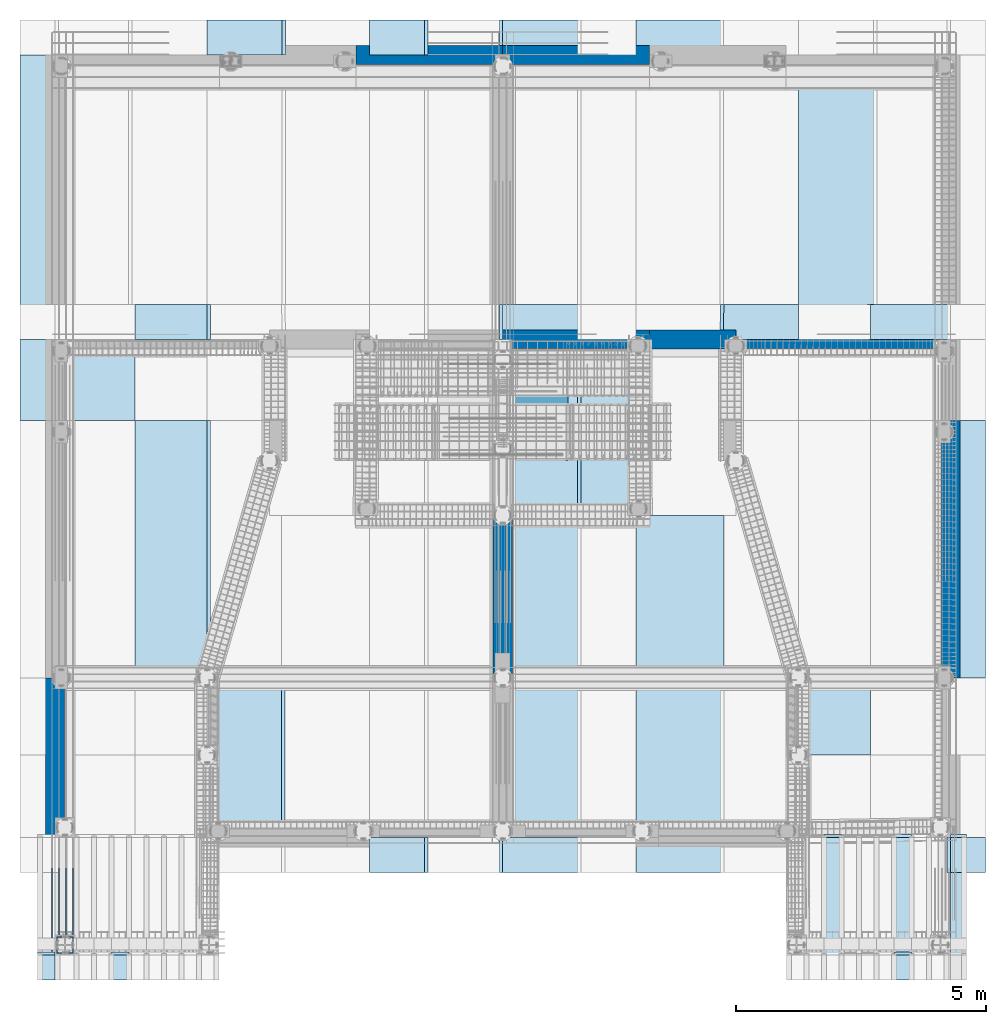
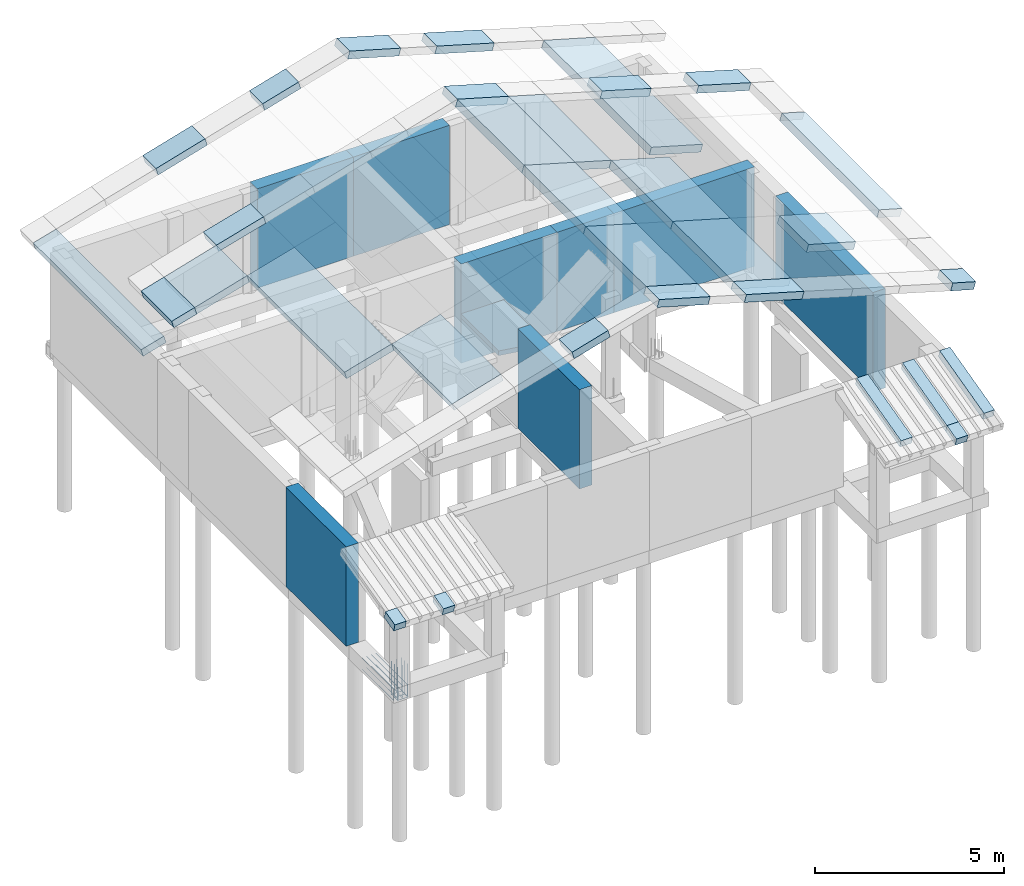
# One storey, part 2 of 13: 32 slabs, 9 walls, 2 reinforcing bars.
"""IFC4 building model written with IfcOpenShell, lengths in metres."""

import ifcopenshell
import ifcopenshell.guid

model = None  # the IFC model being written
_history = None  # IfcOwnerHistory: only IFC2X3 demands one
_inside = {}  # id of a spatial element -> (the spatial element, [elements in it])
_under = {}  # id of a project, library or spatial element -> (it, [spatial elements below it])
_declared = {}  # id of a project -> (the project, [libraries it declares])
_typed = {}  # id of a type object -> (the type object, [elements of that type])
_made_of = {}  # id of a material, layer set ... -> (it, [elements and type objects made of it])


def new_model(schema):
    """Start an empty IFC model of exactly this schema.

    Asked for "IFC4X3", IfcOpenShell would pick the latest addendum, in which some entities
    have other attributes; the version numbers below select the first issue.
    IFC2X3 requires an IfcOwnerHistory on every rooted entity: one is made here for all.
    """
    global model, _history
    if schema == "IFC4X3":
        model = ifcopenshell.file(schema_version=(4, 3, 0, 0))
    else:
        model = ifcopenshell.file(schema=schema)
    _inside.clear()
    _under.clear()
    _declared.clear()
    _typed.clear()
    _made_of.clear()
    _history = None
    if model.schema == "IFC2X3":
        org = make("IfcOrganization", Name="unknown")
        user = make(
            "IfcPersonAndOrganization",
            ThePerson=make("IfcPerson", FamilyName="unknown"),
            TheOrganization=org,
        )
        app = make(
            "IfcApplication",
            ApplicationDeveloper=org,
            Version="unknown",
            ApplicationFullName="unknown",
            ApplicationIdentifier="unknown",
        )
        _history = make(
            "IfcOwnerHistory",
            OwningUser=user,
            OwningApplication=app,
            ChangeAction="ADDED",
            CreationDate=0,
        )
    return model


def make(cls, **values):
    """One entity of the class cls with the attributes given. An attribute that is None is left unset."""
    return model.create_entity(
        cls, **{name: value for name, value in values.items() if value is not None}
    )


def entity(cls, *values):
    """Any entity or typed value of the class cls, its attributes in the order of the schema. None: left unset."""
    e = model.create_entity(cls)
    for i, value in enumerate(values):
        if value is not None:
            e[i] = value
    return e


def rooted(cls, **values):
    """An entity with a GlobalId (a new one), such as an element, a storey or a relation."""
    return make(cls, GlobalId=ifcopenshell.guid.new(), OwnerHistory=_history, **values)


def si_unit(unit_type, name, prefix=None):
    """IfcSIUnit, for example si_unit("LENGTHUNIT", "METRE", prefix="MILLI")."""
    return make("IfcSIUnit", UnitType=unit_type, Prefix=prefix, Name=name)


def assignment(units):
    """IfcUnitAssignment: the units of a project."""
    return None if units is None else make("IfcUnitAssignment", Units=units)


def point(xyz):
    """IfcCartesianPoint."""
    return None if xyz is None else make("IfcCartesianPoint", Coordinates=xyz)


def direction(xyz):
    """IfcDirection."""
    return None if xyz is None else make("IfcDirection", DirectionRatios=xyz)


def frame(location, z_axis=None, x_axis=None):
    """IfcAxis2Placement3D, a coordinate frame: its origin and axes. An axis left out is left unset."""
    return make(
        "IfcAxis2Placement3D",
        Location=point(location),
        Axis=direction(z_axis),
        RefDirection=direction(x_axis),
    )


def origin_with_axes():
    """The frame at (0, 0, 0) with the z axis (0, 0, 1) and the x axis (1, 0, 0) written out."""
    return frame((0.0, 0.0, 0.0), z_axis=(0.0, 0.0, 1.0), x_axis=(1.0, 0.0, 0.0))


def place(relative_to, where):
    """IfcLocalPlacement: puts the frame where relative to a parent placement (None: the world)."""
    return make(
        "IfcLocalPlacement", PlacementRelTo=relative_to, RelativePlacement=where
    )


def context(
    kind, dimensions, precision=None, world=None, true_north=None, identifier=None
):
    """IfcGeometricRepresentationContext, for example the 3D "Model" context."""
    return make(
        "IfcGeometricRepresentationContext",
        ContextIdentifier=identifier,
        ContextType=kind,
        CoordinateSpaceDimension=dimensions,
        Precision=precision,
        WorldCoordinateSystem=world,
        TrueNorth=true_north,
    )


def project(units=None, contexts=None):
    """IfcProject with its units and contexts."""
    return rooted(
        "IfcProject",
        Name="project",
        RepresentationContexts=contexts,
        UnitsInContext=assignment(units),
    )


def spatial(cls, under=None, at=None, **own):
    """A site, building, storey or space (cls), placed at a placement, below another one or the project."""
    s = rooted(cls, ObjectPlacement=at, **own)
    if under is not None:
        _under.setdefault(under.id(), (under, []))[1].append(s)
    return s


def polyline(points):
    """IfcPolyline through the points."""
    return make("IfcPolyline", Points=[point(p) for p in points])


def outline(outer, holes=None, kind="AREA"):
    """IfcArbitraryClosedProfileDef: a profile drawn as a closed curve; with holes, ...WithVoids."""
    if holes is None:
        return make("IfcArbitraryClosedProfileDef", ProfileType=kind, OuterCurve=outer)
    return make(
        "IfcArbitraryProfileDefWithVoids",
        ProfileType=kind,
        OuterCurve=outer,
        InnerCurves=holes,
    )


def extrude(swept, where, along, depth):
    """IfcExtrudedAreaSolid: the profile swept, set in the frame where, extruded along a direction by depth."""
    return make(
        "IfcExtrudedAreaSolid",
        SweptArea=swept,
        Position=where,
        ExtrudedDirection=direction(along),
        Depth=depth,
    )


def faces_of(points, faces, orient=None, outer=None):
    """IfcFace entities. A face is a list of loops; a loop is a list of indices into points, from 0.

    orient and outer hold one flag for each loop. By default every Orientation is true, the
    first loop of a face is its IfcFaceOuterBound and the others are IfcFaceBound.
    """
    made = []
    for i, loops in enumerate(faces):
        bounds = []
        for j, loop in enumerate(loops):
            is_outer = j == 0 if outer is None else outer[i][j]
            bounds.append(
                make(
                    "IfcFaceOuterBound" if is_outer else "IfcFaceBound",
                    Bound=make("IfcPolyLoop", Polygon=[points[k] for k in loop]),
                    Orientation=True if orient is None else orient[i][j],
                )
            )
        made.append(make("IfcFace", Bounds=bounds))
    return made


def faceted_brep(points, faces, orient=None, outer=None, voids=None):
    """IfcFacetedBrep: a solid bounded by flat faces; with voids (closed shells), ...WithVoids."""
    shared = [point(p) for p in points]
    hull = make("IfcClosedShell", CfsFaces=faces_of(shared, faces, orient, outer))
    if voids is None:
        return make("IfcFacetedBrep", Outer=hull)
    return make(
        "IfcFacetedBrepWithVoids",
        Outer=hull,
        Voids=[
            make(cls, CfsFaces=faces_of(shared, fs, o, b)) for cls, fs, o, b in voids
        ],
    )


def shape(context_of_items, identifier, shape_type, items):
    """IfcShapeRepresentation: the items that make up one representation, for example the "Body"."""
    return make(
        "IfcShapeRepresentation",
        ContextOfItems=context_of_items,
        RepresentationIdentifier=identifier,
        RepresentationType=shape_type,
        Items=items,
    )


def source(mapping_origin, context_of_items, identifier, shape_type, items):
    """IfcRepresentationMap: a shape defined once, which mapped items show again and again."""
    return make(
        "IfcRepresentationMap",
        MappingOrigin=mapping_origin,
        MappedRepresentation=shape(context_of_items, identifier, shape_type, items),
    )


def transform(
    local_origin,
    x_axis=None,
    y_axis=None,
    z_axis=None,
    scale=None,
    scale2=None,
    scale3=None,
    uniform=True,
):
    """IfcCartesianTransformationOperator3D, or its non-uniform kind. x_axis, y_axis, z_axis: its Axis1, 2, 3."""
    if uniform:
        return make(
            "IfcCartesianTransformationOperator3D",
            Axis1=direction(x_axis),
            Axis2=direction(y_axis),
            LocalOrigin=point(local_origin),
            Scale=scale,
            Axis3=direction(z_axis),
        )
    return make(
        "IfcCartesianTransformationOperator3DnonUniform",
        Axis1=direction(x_axis),
        Axis2=direction(y_axis),
        LocalOrigin=point(local_origin),
        Scale=scale,
        Axis3=direction(z_axis),
        Scale2=scale2,
        Scale3=scale3,
    )


def mapped(mapping_source, mapping_target):
    """IfcMappedItem: shows the shape of a source again, moved by a transform."""
    return make(
        "IfcMappedItem", MappingSource=mapping_source, MappingTarget=mapping_target
    )


def material(Name=None, Category=None):
    """IfcMaterial."""
    return make("IfcMaterial", Name=Name, Category=Category)


def layer(
    of_material, thickness, ventilated=None, Name=None, Category=None, Priority=None
):
    """IfcMaterialLayer: one layer of a wall or slab, of a material (None: an air gap)."""
    return make(
        "IfcMaterialLayer",
        Material=of_material,
        LayerThickness=thickness,
        IsVentilated=ventilated,
        Name=Name,
        Category=Category,
        Priority=Priority,
    )


def layer_set(layers, Name=None):
    """IfcMaterialLayerSet."""
    return make("IfcMaterialLayerSet", MaterialLayers=layers, LayerSetName=Name)


def layer_usage(for_layer_set, set_direction, sense, offset, extent=None):
    """IfcMaterialLayerSetUsage: how a layer set lies in its element."""
    return make(
        "IfcMaterialLayerSetUsage",
        ForLayerSet=for_layer_set,
        LayerSetDirection=set_direction,
        DirectionSense=sense,
        OffsetFromReferenceLine=offset,
        ReferenceExtent=extent,
    )


def made_of(thing, what):
    """Note that an element or type object is made of a material, layer set ...; save() writes the relation."""
    if what is not None:
        _made_of.setdefault(what.id(), (what, []))[1].append(thing)
    return thing


def type_object(cls, material=None, **own):
    """A type object (cls), such as IfcWallType, which elements share."""
    return made_of(rooted(cls, **own), material)


def element(
    cls,
    number,
    at=None,
    inside=None,
    cuts=None,
    type_object=None,
    material=None,
    context=None,
    identifier="Body",
    shape_type=None,
    held_by="IfcProductDefinitionShape",
    body=None,
    shapes=None,
    **own,
):
    """One element of the class cls, such as IfcWall. Its Tag is "e" and its number.

    at: its placement. inside: the storey or other place that contains it. cuts: it is an
    opening in that element (IfcRelVoidsElement). A single representation is given by context,
    identifier, shape_type and body (its items); several are given by shapes. held_by: the class
    of the entity that holds the representations. save() writes the other relations.
    """
    e = rooted(cls, Tag="e%d" % number, ObjectPlacement=at, **own)
    if body is not None:
        shapes = [shape(context, identifier, shape_type, body)]
    if shapes is not None:
        e.Representation = make(held_by, Representations=shapes)
    if inside is not None:
        _inside.setdefault(inside.id(), (inside, []))[1].append(e)
    if cuts is not None:
        rooted(
            "IfcRelVoidsElement", RelatingBuildingElement=cuts, RelatedOpeningElement=e
        )
    if type_object is not None:
        _typed.setdefault(type_object.id(), (type_object, []))[1].append(e)
    return made_of(e, material)


def aggregate(whole, parts):
    """IfcRelAggregates: a whole, such as a stair, and the parts it consists of."""
    return rooted("IfcRelAggregates", RelatingObject=whole, RelatedObjects=parts)


def save(model, path):
    """Write the relations noted so far, then the file.

    IfcRelAggregates (storeys below a building ...), IfcRelContainedInSpatialStructure (elements
    in a storey), IfcRelDefinesByType, IfcRelAssociatesMaterial and IfcRelDeclares: one each for
    every whole, place, type object, material and project.
    """
    for whole, parts in _under.values():
        aggregate(whole, parts)
    for where, things in _inside.values():
        rooted(
            "IfcRelContainedInSpatialStructure",
            RelatedElements=things,
            RelatingStructure=where,
        )
    for kind, things in _typed.values():
        rooted("IfcRelDefinesByType", RelatedObjects=things, RelatingType=kind)
    for what, things in _made_of.values():
        rooted("IfcRelAssociatesMaterial", RelatedObjects=things, RelatingMaterial=what)
    for by, libraries in _declared.values():
        rooted("IfcRelDeclares", RelatingContext=by, RelatedDefinitions=libraries)
    model.write(path)


model = new_model("IFC4")

# Units and contexts
model_context = context("Model", 3, precision=1e-05, world=origin_with_axes())
ifc_project = project(units=[si_unit("LENGTHUNIT", "METRE"), si_unit("AREAUNIT", "SQUARE_METRE"), si_unit("VOLUMEUNIT", "CUBIC_METRE"), si_unit("MASSUNIT", "GRAM", prefix="KILO"), si_unit("TIMEUNIT", "SECOND"), si_unit("PLANEANGLEUNIT", "RADIAN"), si_unit("SOLIDANGLEUNIT", "STERADIAN"), si_unit("THERMODYNAMICTEMPERATUREUNIT", "DEGREE_CELSIUS")], contexts=[model_context])

# Site, building, storey
placement_1 = place(None, origin_with_axes())
site = spatial("IfcSite", under=ifc_project, at=placement_1, Name="Italia", CompositionType="ELEMENT")
building = spatial("IfcBuilding", under=site, at=placement_1, Name="Villa", CompositionType="ELEMENT")
storey = spatial("IfcBuildingStorey", under=building, at=placement_1, Name="Storey 0", CompositionType="ELEMENT", Elevation=0.0)

# Slabs
ifc_material_1 = material(Name="Concrete", Category="Concrete")
slab_type_1 = type_object("IfcSlabType", Name="3 COPERTURA DEL fabbricato perline", PredefinedType="FLOOR", material=ifc_material_1)
placement_2 = place(placement_1, origin_with_axes())
slab_1_placement = place(placement_2, origin_with_axes())
element("IfcSlab", 1, at=slab_1_placement, inside=storey, type_object=slab_type_1, Name="206", context=model_context, shape_type="SweptSolid", body=[
    extrude(outline(polyline([(0.0, 0.0), (0.0, 1.55361), (3.19, 1.55361), (3.19, 0.0), (1.65, 0.0), (0.0, 0.0)])), frame((3.18, 2.35, 6.68), z_axis=(0.283211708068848, 0.0, -0.959057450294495), x_axis=(0.0, 1.0, 0.0)), (0.0, 0.0, 1.0), 0.24),
])
ifc_material_2 = material(Name="Concrete", Category="Concrete")
slab_type_2 = type_object("IfcSlabType", Name="3 COPERTURA DEL fabbricato perline", PredefinedType="FLOOR", material=ifc_material_2)
slab_2_placement = place(placement_2, origin_with_axes())
element("IfcSlab", 2, at=slab_2_placement, inside=storey, type_object=slab_type_2, Name="210", context=model_context, shape_type="SweptSolid", body=[
    extrude(outline(polyline([(0.0, 0.0), (0.0, 1.49723), (5.14, 1.49723), (5.14, 0.0), (0.0, 0.0)])), frame((1.74, 5.54, 6.27), z_axis=(0.273838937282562, 0.0, -0.961775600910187), x_axis=(0.0, 1.0, 0.0)), (0.0, 0.0, 1.0), 0.24),
])
ifc_material_3 = material(Name="Concrete", Category="Concrete")
slab_type_3 = type_object("IfcSlabType", Name="3 COPERTURA DEL fabbricato perline", PredefinedType="FLOOR", material=ifc_material_3)
slab_3_placement = place(placement_2, origin_with_axes())
element("IfcSlab", 3, at=slab_3_placement, inside=storey, type_object=slab_type_3, Name="216", context=model_context, shape_type="SweptSolid", body=[
    extrude(outline(polyline([(0.0, 0.0), (0.0, 1.6676), (1.62, 1.6676), (1.62, 0.0), (0.0, 0.0)])), frame((0.14, 10.68, 5.8), z_axis=(0.281841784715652, 0.0, -0.959460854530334), x_axis=(0.0, 1.0, 0.0)), (0.0, 0.0, 1.0), 0.24),
])
ifc_material_4 = material(Name="Concrete", Category="Concrete")
slab_type_4 = type_object("IfcSlabType", Name="1 COP DEL LOGGIATO IN LEGNO E MEZZANE", PredefinedType="FLOOR", material=ifc_material_4)
slab_4_placement = place(placement_2, origin_with_axes())
element("IfcSlab", 4, at=slab_4_placement, inside=storey, type_object=slab_type_4, Name="400", context=model_context, shape_type="SweptSolid", body=[
    extrude(outline(polyline([(0.0, 0.0), (-0.35, 0.0), (-0.35, 0.51604), (0.0, 0.51604), (0.0, 0.0)])), frame((-0.21, -0.5, 2.47234), z_axis=(0.0, 0.247383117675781, -0.968917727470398), x_axis=(-1.0, 0.0, 0.0)), (0.0, 0.0, 1.0), 0.24),
])
ifc_material_5 = material(Name="Concrete", Category="Concrete")
slab_type_5 = type_object("IfcSlabType", Name="1 COP DEL LOGGIATO IN LEGNO E MEZZANE", PredefinedType="FLOOR", material=ifc_material_5)
slab_5_placement = place(placement_2, origin_with_axes())
element("IfcSlab", 5, at=slab_5_placement, inside=storey, type_object=slab_type_5, Name="404", context=model_context, shape_type="SweptSolid", body=[
    extrude(outline(polyline([(0.0, 0.0), (-0.35, 0.0), (-0.35, 0.51604), (0.0, 0.51604), (0.0, 0.0)])), frame((1.27, -0.5, 2.47234), z_axis=(0.0, 0.247383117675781, -0.968917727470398), x_axis=(-1.0, 0.0, 0.0)), (0.0, 0.0, 1.0), 0.24),
])
ifc_material_6 = material(Name="Concrete", Category="Concrete")
slab_type_6 = type_object("IfcSlabType", Name="1 COP DEL LOGGIATO IN LEGNO E MEZZANE", PredefinedType="FLOOR", material=ifc_material_6)
slab_6_placement = place(placement_2, origin_with_axes())
element("IfcSlab", 6, at=slab_6_placement, inside=storey, type_object=slab_type_6, Name="227", context=model_context, shape_type="SweptSolid", body=[
    extrude(outline(polyline([(0.0, 0.0), (-0.700001, 0.0), (-0.700001, -1.5632), (0.0, -1.5632), (0.0, 0.0)])), frame((4.68, 18.69, 5.22), z_axis=(0.281472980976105, 0.0, -0.959569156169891), x_axis=(0.0, 1.0, 0.0)), (0.0, 0.0, 1.0), 0.24),
])
ifc_material_7 = material(Name="Concrete", Category="Concrete")
slab_type_7 = type_object("IfcSlabType", Name="1 COP DEL LOGGIATO IN LEGNO E MEZZANE", PredefinedType="FLOOR", material=ifc_material_7)
slab_7_placement = place(placement_2, origin_with_axes())
element("IfcSlab", 7, at=slab_7_placement, inside=storey, type_object=slab_type_7, Name="229", context=model_context, shape_type="SweptSolid", body=[
    extrude(outline(polyline([(0.0, 0.0), (-0.700001, 0.0), (-0.700001, -1.1456), (0.0, -1.1456), (0.0, 0.0)])), frame((7.53, 18.69, 6.05), z_axis=(0.279329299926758, 0.0, -0.960195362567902), x_axis=(0.0, 1.0, 0.0)), (0.0, 0.0, 1.0), 0.24),
])
ifc_material_8 = material(Name="Concrete", Category="Concrete")
slab_type_8 = type_object("IfcSlabType", Name="1 COP DEL LOGGIATO IN LEGNO E MEZZANE", PredefinedType="FLOOR", material=ifc_material_8)
slab_8_placement = place(placement_2, origin_with_axes())
element("IfcSlab", 8, at=slab_8_placement, inside=storey, type_object=slab_type_8, Name="232", context=model_context, shape_type="SweptSolid", body=[
    extrude(outline(polyline([(0.0, 0.0), (-5.69, 0.0), (-5.69, -0.728011), (0.0, -0.728011), (0.0, 0.0)])), frame((0.14, 17.99, 3.9), z_axis=(0.274721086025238, 0.0, -0.961523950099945), x_axis=(0.0, 1.0, 0.0)), (0.0, 0.0, 1.0), 0.24),
])
ifc_material_9 = material(Name="Concrete", Category="Concrete")
slab_type_9 = type_object("IfcSlabType", Name="1 COP DEL LOGGIATO IN LEGNO E MEZZANE", PredefinedType="FLOOR", material=ifc_material_9)
slab_9_placement = place(placement_2, origin_with_axes())
element("IfcSlab", 9, at=slab_9_placement, inside=storey, type_object=slab_type_9, Name="237", context=model_context, shape_type="SweptSolid", body=[
    extrude(outline(polyline([(0.0, 0.0), (-0.7, 0.0), (-0.7, -1.49723), (0.0, -1.49723), (0.0, 0.0)])), frame((3.18, 13.0, 6.68), z_axis=(0.273838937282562, 0.0, -0.961775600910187), x_axis=(0.0, 1.0, 0.0)), (0.0, 0.0, 1.0), 0.24),
])
ifc_material_10 = material(Name="Concrete", Category="Concrete")
slab_type_10 = type_object("IfcSlabType", Name="1 COP DEL LOGGIATO IN LEGNO E MEZZANE", PredefinedType="FLOOR", material=ifc_material_10)
slab_10_placement = place(placement_2, origin_with_axes())
element("IfcSlab", 10, at=slab_10_placement, inside=storey, type_object=slab_type_10, Name="240", context=model_context, shape_type="SweptSolid", body=[
    extrude(outline(polyline([(0.0, 0.0), (-1.62, 0.0), (-1.62, -0.728011), (0.0, -0.728011), (0.0, 0.0)])), frame((0.14, 12.3, 5.8), z_axis=(0.27472135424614, 0.0, -0.9615238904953), x_axis=(0.0, 1.0, 0.0)), (0.0, 0.0, 1.0), 0.24),
])
ifc_material_11 = material(Name="Concrete", Category="Concrete")
slab_type_11 = type_object("IfcSlabType", Name="1 COP DEL LOGGIATO IN LEGNO E MEZZANE", PredefinedType="FLOOR", material=ifc_material_11)
slab_11_placement = place(placement_2, origin_with_axes())
element("IfcSlab", 11, at=slab_11_placement, inside=storey, type_object=slab_type_11, Name="250", context=model_context, shape_type="SweptSolid", body=[
    extrude(outline(polyline([(0.0, 0.0), (-0.7, 0.0), (-0.7, -1.1456), (0.0, -1.1456), (0.0, 0.0)])), frame((7.53, 2.35, 7.95), z_axis=(0.279329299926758, 0.0, -0.960195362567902), x_axis=(0.0, 1.0, 0.0)), (0.0, 0.0, 1.0), 0.24),
])
ifc_material_12 = material(Name="Concrete", Category="Concrete")
slab_type_12 = type_object("IfcSlabType", Name="3 COPERTURA DEL fabbricato perline", PredefinedType="FLOOR", material=ifc_material_12)
slab_12_placement = place(placement_2, origin_with_axes())
element("IfcSlab", 12, at=slab_12_placement, inside=storey, type_object=slab_type_12, Name="253", context=model_context, shape_type="SweptSolid", body=[
    extrude(outline(polyline([(0.0, 0.0), (0.0, 1.63322), (-5.69, 1.63322), (-5.69, 0.0), (0.0, 0.0)])), frame((16.57, 12.3, 4.33), z_axis=(-0.275532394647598, 0.0, -0.961291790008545), x_axis=(0.0, -1.0, 0.0)), (0.0, 0.0, 1.0), 0.24),
])
ifc_material_13 = material(Name="Concrete", Category="Concrete")
slab_type_13 = type_object("IfcSlabType", Name="3 COPERTURA DEL fabbricato perline", PredefinedType="FLOOR", material=ifc_material_13)
slab_13_placement = place(placement_2, origin_with_axes())
element("IfcSlab", 13, at=slab_13_placement, inside=storey, type_object=slab_type_13, Name="259", context=model_context, shape_type="SweptSolid", body=[
    extrude(outline(polyline([(0.0, 0.0), (-0.00028038, 1.364), (-0.00037694, 1.8324), (-3.19038, 1.83175), (-3.19, -0.000656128), (0.0, 0.0)])), frame((13.51, 2.35, 7.12), z_axis=(-0.278322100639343, -5.9604684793e-05, -0.96048778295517), x_axis=(0.000214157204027, -1.0, 0.0)), (0.0, 0.0, 1.0), 0.24),
])
ifc_material_14 = material(Name="Concrete", Category="Concrete")
slab_type_14 = type_object("IfcSlabType", Name="3 COPERTURA DEL fabbricato perline", PredefinedType="FLOOR", material=ifc_material_14)
slab_14_placement = place(placement_2, origin_with_axes())
element("IfcSlab", 14, at=slab_14_placement, inside=storey, type_object=slab_type_14, Name="261", context=model_context, shape_type="SweptSolid", body=[
    extrude(outline(polyline([(0.0, 0.0), (0.0, 1.62361), (-3.19, 1.62361), (-3.19, 0.0), (0.0, 0.0)])), frame((10.65, 2.35, 7.95), z_axis=(-0.277161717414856, 0.0, -0.96082329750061), x_axis=(0.0, -1.0, 0.0)), (0.0, 0.0, 1.0), 0.24),
])
ifc_material_15 = material(Name="Concrete", Category="Concrete")
slab_type_15 = type_object("IfcSlabType", Name="3 COPERTURA DEL fabbricato perline", PredefinedType="FLOOR", material=ifc_material_15)
slab_15_placement = place(placement_2, origin_with_axes())
element("IfcSlab", 15, at=slab_15_placement, inside=storey, type_object=slab_type_15, Name="264", context=model_context, shape_type="SweptSolid", body=[
    extrude(outline(polyline([(0.0, 0.0), (0.00106812, 1.8324), (-3.24893, 1.8343), (-3.2491, 1.54309), (-3.25, 0.001894), (0.0, 0.0)])), frame((13.51, 5.54, 7.12), z_axis=(-0.278322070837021, 0.000168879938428, -0.96048778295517), x_axis=(-0.000606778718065, -0.999999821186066, 0.0)), (0.0, 0.0, 1.0), 0.24),
])
ifc_material_16 = material(Name="Concrete", Category="Concrete")
slab_type_16 = type_object("IfcSlabType", Name="3 COPERTURA DEL fabbricato perline", PredefinedType="FLOOR", material=ifc_material_16)
slab_16_placement = place(placement_2, origin_with_axes())
element("IfcSlab", 16, at=slab_16_placement, inside=storey, type_object=slab_type_16, Name="266", context=model_context, shape_type="SweptSolid", body=[
    extrude(outline(polyline([(0.0, 0.0), (0.0, 1.62361), (-3.25, 1.62361), (-3.25, 0.0), (0.0, 0.0)])), frame((10.65, 5.54, 7.95), z_axis=(-0.277161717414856, 0.0, -0.96082329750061), x_axis=(0.0, -1.0, 0.0)), (0.0, 0.0, 1.0), 0.24),
])
ifc_material_17 = material(Name="Concrete", Category="Concrete")
slab_type_17 = type_object("IfcSlabType", Name="3 COPERTURA DEL fabbricato perline", PredefinedType="FLOOR", material=ifc_material_17)
slab_17_placement = place(placement_2, origin_with_axes())
element("IfcSlab", 17, at=slab_17_placement, inside=storey, type_object=slab_type_17, Name="270", context=model_context, shape_type="SweptSolid", body=[
    extrude(outline(polyline([(0.0, 0.0), (0.0, 1.1456), (-3.51, 1.1456), (-3.51, 0.0), (0.0, 0.0)])), frame((11.75, 8.79, 7.63), z_axis=(-0.279327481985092, 0.0, -0.960195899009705), x_axis=(0.0, -1.0, 0.0)), (0.0, 0.0, 1.0), 0.24),
])
ifc_material_18 = material(Name="Concrete", Category="Concrete")
slab_type_18 = type_object("IfcSlabType", Name="1 COP DEL LOGGIATO IN LEGNO E MEZZANE", PredefinedType="FLOOR", material=ifc_material_18)
slab_18_placement = place(placement_2, origin_with_axes())
element("IfcSlab", 18, at=slab_18_placement, inside=storey, type_object=slab_type_18, Name="412", context=model_context, shape_type="SweptSolid", body=[
    extrude(outline(polyline([(0.0, 0.0), (0.35, 0.0), (0.35, 0.516624), (0.0, 0.516624), (0.0, 0.0)])), frame((17.26, -0.5, 2.47), z_axis=(0.0, 0.251633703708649, -0.967822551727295), x_axis=(-1.0, 0.0, 0.0)), (0.0, 0.0, 1.0), 0.24),
])
ifc_material_19 = material(Name="Concrete", Category="Concrete")
slab_type_19 = type_object("IfcSlabType", Name="1 COP DEL LOGGIATO IN LEGNO E MEZZANE", PredefinedType="FLOOR", material=ifc_material_19)
slab_19_placement = place(placement_2, origin_with_axes())
element("IfcSlab", 19, at=slab_19_placement, inside=storey, type_object=slab_type_19, Name="161", context=model_context, shape_type="SweptSolid", body=[
    extrude(outline(polyline([(0.0, 0.0), (0.319998, 0.0), (0.319998, 2.42539), (0.0, 2.42539), (0.0, 0.0)])), frame((18.36, 0.0, 2.6), z_axis=(0.0, 0.247383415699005, -0.968917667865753), x_axis=(-1.0, 0.0, 0.0)), (0.0, 0.0, 1.0), 0.24),
])
ifc_material_20 = material(Name="Concrete", Category="Concrete")
slab_type_20 = type_object("IfcSlabType", Name="1 COP DEL LOGGIATO IN LEGNO E MEZZANE", PredefinedType="FLOOR", material=ifc_material_20)
slab_20_placement = place(placement_2, origin_with_axes())
element("IfcSlab", 20, at=slab_20_placement, inside=storey, type_object=slab_type_20, Name="163", context=model_context, shape_type="SweptSolid", body=[
    extrude(outline(polyline([(0.0, 0.0), (0.35, 0.0), (0.35, 2.42539), (0.0, 2.42539), (0.0, 0.0)])), frame((17.26, 0.0, 2.6), z_axis=(0.0, 0.247383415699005, -0.968917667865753), x_axis=(-1.0, 0.0, 0.0)), (0.0, 0.0, 1.0), 0.24),
])
ifc_material_21 = material(Name="Concrete", Category="Concrete")
slab_type_21 = type_object("IfcSlabType", Name="1 COP DEL LOGGIATO IN LEGNO E MEZZANE", PredefinedType="FLOOR", material=ifc_material_21)
slab_21_placement = place(placement_2, origin_with_axes())
element("IfcSlab", 21, at=slab_21_placement, inside=storey, type_object=slab_type_21, Name="166", context=model_context, shape_type="SweptSolid", body=[
    extrude(outline(polyline([(0.0, 0.0), (0.349999, 0.0), (0.349999, 2.42539), (0.0, 2.42539), (0.0, 0.0)])), frame((15.86, 0.0, 2.6), z_axis=(0.0, 0.247383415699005, -0.968917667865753), x_axis=(-1.0, 0.0, 0.0)), (0.0, 0.0, 1.0), 0.24),
])
ifc_material_22 = material(Name="Concrete", Category="Concrete")
slab_type_22 = type_object("IfcSlabType", Name="3 COPERTURA DEL fabbricato perline", PredefinedType="FLOOR", material=ifc_material_22)
slab_22_placement = place(placement_2, origin_with_axes())
element("IfcSlab", 22, at=slab_22_placement, inside=storey, type_object=slab_type_22, Name="271", context=model_context, shape_type="SweptSolid", body=[
    extrude(outline(polyline([(0.0, 0.0), (3.51, 0.0), (3.51, 1.62361), (2.17, 1.62361), (0.0, 1.62361), (0.0, 0.0)])), frame((10.65, 12.3, 7.95), z_axis=(-0.277161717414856, 0.0, -0.96082329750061), x_axis=(0.0, -1.0, 0.0)), (0.0, 0.0, 1.0), 0.24),
])
ifc_material_23 = material(Name="Concrete", Category="Concrete")
slab_type_23 = type_object("IfcSlabType", Name="3 COPERTURA DEL fabbricato perline", PredefinedType="FLOOR", material=ifc_material_23)
slab_23_placement = place(placement_2, origin_with_axes())
element("IfcSlab", 23, at=slab_23_placement, inside=storey, type_object=slab_type_23, Name="276", context=model_context, shape_type="SweptSolid", body=[
    extrude(outline(polyline([(0.0, 0.0), (0.0, 1.49723), (-1.54, 1.49723), (-1.54, 0.0), (0.0, 0.0)])), frame((16.44, 4.0, 6.27), z_axis=(-0.273839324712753, 0.0, -0.961775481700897), x_axis=(0.0, -1.0, 0.0)), (0.0, 0.0, 1.0), 0.24),
])
ifc_material_24 = material(Name="Concrete", Category="Concrete")
slab_type_24 = type_object("IfcSlabType", Name="1 COP DEL LOGGIATO IN LEGNO E MEZZANE", PredefinedType="FLOOR", material=ifc_material_24)
slab_24_placement = place(placement_2, origin_with_axes())
element("IfcSlab", 24, at=slab_24_placement, inside=storey, type_object=slab_type_24, Name="280", context=model_context, shape_type="SweptSolid", body=[
    extrude(outline(polyline([(0.0, 0.0), (0.699997, -0.00215721), (0.699131, -0.283757), (0.69438, -1.82495), (-0.00561714, -1.82279), (0.0, 0.0)])), frame((11.75, 18.69, 5.73), z_axis=(-0.279788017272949, 0.000898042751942, -0.960061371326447), x_axis=(-0.003209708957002, -0.999994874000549, 0.0)), (0.0, 0.0, 1.0), 0.24),
])
ifc_material_25 = material(Name="Concrete", Category="Concrete")
slab_type_25 = type_object("IfcSlabType", Name="1 COP DEL LOGGIATO IN LEGNO E MEZZANE", PredefinedType="FLOOR", material=ifc_material_25)
slab_25_placement = place(placement_2, origin_with_axes())
element("IfcSlab", 25, at=slab_25_placement, inside=storey, type_object=slab_type_25, Name="282", context=model_context, shape_type="SweptSolid", body=[
    extrude(outline(polyline([(0.0, 0.0), (0.700001, 0.0), (0.700001, -1.62361), (0.0, -1.62361), (0.0, 0.0)])), frame((9.09, 18.69, 6.5), z_axis=(-0.277161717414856, 0.0, -0.96082329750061), x_axis=(0.0, -1.0, 0.0)), (0.0, 0.0, 1.0), 0.24),
])
ifc_material_26 = material(Name="Concrete", Category="Concrete")
slab_type_26 = type_object("IfcSlabType", Name="1 COP DEL LOGGIATO IN LEGNO E MEZZANE", PredefinedType="FLOOR", material=ifc_material_26)
slab_26_placement = place(placement_2, origin_with_axes())
element("IfcSlab", 26, at=slab_26_placement, inside=storey, type_object=slab_type_26, Name="285", context=model_context, shape_type="SweptSolid", body=[
    extrude(outline(polyline([(0.0, 0.0), (0.7, 0.0), (0.7, -1.62361), (0.0, -1.62361), (0.0, 0.0)])), frame((9.09, 13.0, 8.4), z_axis=(-0.277161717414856, 0.0, -0.96082329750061), x_axis=(0.0, -1.0, 0.0)), (0.0, 0.0, 1.0), 0.24),
])
ifc_material_27 = material(Name="Concrete", Category="Concrete")
slab_type_27 = type_object("IfcSlabType", Name="1 COP DEL LOGGIATO IN LEGNO E MEZZANE", PredefinedType="FLOOR", material=ifc_material_27)
slab_27_placement = place(placement_2, origin_with_axes())
element("IfcSlab", 27, at=slab_27_placement, inside=storey, type_object=slab_type_27, Name="288", context=model_context, shape_type="SweptSolid", body=[
    extrude(outline(polyline([(0.0, 0.0), (0.699989, 0.0102463), (0.700232, -0.249347), (0.701446, -1.55295), (0.00144672, -1.55361), (0.0, 0.0)])), frame((13.51, 13.0, 7.12), z_axis=(-0.282339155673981, -0.000274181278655, -0.959314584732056), x_axis=(0.000971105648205, -0.999999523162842, 0.0)), (0.0, 0.0, 1.0), 0.24),
])
ifc_material_28 = material(Name="Concrete", Category="Concrete")
slab_type_28 = type_object("IfcSlabType", Name="1 COP DEL LOGGIATO IN LEGNO E MEZZANE", PredefinedType="FLOOR", material=ifc_material_28)
slab_28_placement = place(placement_2, origin_with_axes())
element("IfcSlab", 28, at=slab_28_placement, inside=storey, type_object=slab_type_28, Name="290", context=model_context, shape_type="SweptSolid", body=[
    extrude(outline(polyline([(0.0, 0.0), (0.7, 0.0), (0.7, -1.6676), (0.0, -1.6676), (0.0, 0.0)])), frame((16.44, 13.0, 6.27), z_axis=(-0.281842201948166, 0.0, -0.959460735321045), x_axis=(0.0, -1.0, 0.0)), (0.0, 0.0, 1.0), 0.24),
])
ifc_material_29 = material(Name="Concrete", Category="Concrete")
slab_type_29 = type_object("IfcSlabType", Name="1 COP DEL LOGGIATO IN LEGNO E MEZZANE", PredefinedType="FLOOR", material=ifc_material_29)
slab_29_placement = place(placement_2, origin_with_axes())
element("IfcSlab", 29, at=slab_29_placement, inside=storey, type_object=slab_type_29, Name="293", context=model_context, shape_type="SweptSolid", body=[
    extrude(outline(polyline([(0.0, 0.0), (5.14, 0.0), (5.14, -0.728012), (0.0, -0.728012), (0.0, 0.0)])), frame((18.04, 10.68, 5.8), z_axis=(-0.274721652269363, 0.0, -0.961523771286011), x_axis=(0.0, -1.0, 0.0)), (0.0, 0.0, 1.0), 0.24),
])
ifc_material_30 = material(Name="Concrete", Category="Concrete")
slab_type_30 = type_object("IfcSlabType", Name="1 COP DEL LOGGIATO IN LEGNO E MEZZANE", PredefinedType="FLOOR", material=ifc_material_30)
slab_30_placement = place(placement_2, origin_with_axes())
element("IfcSlab", 30, at=slab_30_placement, inside=storey, type_object=slab_type_30, Name="297", context=model_context, shape_type="SweptSolid", body=[
    extrude(outline(polyline([(0.0, 0.0), (0.7, 0.0), (0.7, -0.728012), (0.0, -0.728012), (0.0, 0.0)])), frame((18.04, 2.35, 5.8), z_axis=(-0.274721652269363, 0.0, -0.961523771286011), x_axis=(0.0, -1.0, 0.0)), (0.0, 0.0, 1.0), 0.24),
])
ifc_material_31 = material(Name="Concrete", Category="Concrete")
slab_type_31 = type_object("IfcSlabType", Name="1 COP DEL LOGGIATO IN LEGNO E MEZZANE", PredefinedType="FLOOR", material=ifc_material_31)
slab_31_placement = place(placement_2, origin_with_axes())
element("IfcSlab", 31, at=slab_31_placement, inside=storey, type_object=slab_type_31, Name="301", context=model_context, shape_type="SweptSolid", body=[
    extrude(outline(polyline([(0.0, 0.0), (0.00044179, 0.468401), (0.700441, 0.467741), (0.698714, -1.36466), (-0.00128579, -1.364), (0.0, 0.0)])), frame((12.2, 2.35, 7.5), z_axis=(-0.278322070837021, 0.000273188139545, -0.96048778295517), x_axis=(-0.000981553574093, -0.999999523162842, 0.0)), (0.0, 0.0, 1.0), 0.24),
])
ifc_material_32 = material(Name="Concrete", Category="Concrete")
slab_type_32 = type_object("IfcSlabType", Name="1 COP DEL LOGGIATO IN LEGNO E MEZZANE", PredefinedType="FLOOR", material=ifc_material_32)
slab_32_placement = place(placement_2, origin_with_axes())
element("IfcSlab", 32, at=slab_32_placement, inside=storey, type_object=slab_type_32, Name="303", context=model_context, shape_type="SweptSolid", body=[
    extrude(outline(polyline([(0.0, 0.0), (0.7, 0.0), (0.7, -1.62361), (0.0, -1.62361), (0.0, 0.0)])), frame((9.09, 2.35, 8.4), z_axis=(-0.277161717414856, 0.0, -0.96082329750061), x_axis=(0.0, -1.0, 0.0)), (0.0, 0.0, 1.0), 0.24),
])

# Walls
ifc_material_33 = material(Name="Calcestruzzo classe C28/35", Category="Calcestruzzo classe C28/35")
ifc_layer = layer(ifc_material_33, 0.15)
ifc_layer_set = layer_set([ifc_layer])
ifc_layer_usage = layer_usage(ifc_layer_set, "AXIS2", "POSITIVE", -0.15)
wall_type = type_object("IfcWallType", Name="2 SOLETTA SCALA", PredefinedType="STANDARD")
wall_1_placement = place(placement_2, origin_with_axes())
element("IfcWall", 33, at=wall_1_placement, inside=storey, type_object=wall_type, material=ifc_layer_usage, context=model_context, shape_type="Brep", body=[
    faceted_brep([(10.39, 9.88, 1.45), (10.39, 9.88, 1.6), (10.39, 12.3, 1.6), (10.39, 12.3, 1.45), (10.39, 12.3, 1.45), (10.39, 12.3, 1.6), (9.09, 12.3, 1.6), (9.09, 12.3, 1.45), (9.09, 12.3, 1.45), (9.09, 12.3, 1.6), (9.09, 10.13, 1.6), (9.09, 10.13, 1.45), (9.09, 10.13, 1.45), (9.09, 10.13, 1.6), (10.39, 9.88, 1.6), (10.39, 9.88, 1.45), (10.39, 9.88, 1.6), (10.39, 12.3, 1.6), (9.09, 12.3, 1.6), (9.09, 10.13, 1.6), (10.39, 9.88, 1.45), (10.39, 12.3, 1.45), (9.09, 12.3, 1.45), (9.09, 10.13, 1.45)], [[[0, 1, 2, 3]], [[4, 5, 6, 7]], [[8, 9, 10, 11]], [[12, 13, 14, 15]], [[16, 17, 18, 19]], [[20, 21, 22, 23]]]),
])
ifc_material_34 = material(Name="TAMPONAMENTI SPESSORE 41 CM.  300 kg/mq. detratto fori", Category="TAMPONAMENTI SPESSORE 41 CM.  300 kg/mq. detratto fori")
wall_2_placement = place(placement_2, origin_with_axes())
element("IfcWall", 34, at=wall_2_placement, inside=storey, material=ifc_material_34, Name="124", context=model_context, shape_type="SweptSolid", body=[
    extrude(outline(polyline([(0.0, 0.0), (-1.54, 0.0), (-3.19, 0.0), (-3.19, -3.2), (0.0, -3.2), (0.0, 0.0)])), frame((-0.05, 5.54, 3.2), z_axis=(1.0, 0.0, 0.0), x_axis=(0.0, 1.0, 0.0)), (0.0, 0.0, 1.0), 0.38),
])
ifc_material_35 = material(Name="TAMPONAMENTI SPESSORE 41 CM.  300 kg/mq. detratto fori", Category="TAMPONAMENTI SPESSORE 41 CM.  300 kg/mq. detratto fori")
wall_3_placement = place(placement_2, origin_with_axes())
element("IfcWall", 35, at=wall_3_placement, inside=storey, material=ifc_material_35, Name="120", context=model_context, shape_type="SweptSolid", body=[
    extrude(outline(polyline([(0.0, 0.0), (2.93, 0.0), (2.93, 3.2), (1.37, 3.2), (0.27, 3.2), (0.0, 3.2), (0.0, 0.0)])), frame((6.16, 18.18, 0.0), z_axis=(0.0, -1.0, 0.0), x_axis=(1.0, 0.0, 0.0)), (0.0, 0.0, 1.0), 0.380001),
])
ifc_material_36 = material(Name="TAMPONAMENTI SPESSORE 41 CM.  300 kg/mq. detratto fori", Category="TAMPONAMENTI SPESSORE 41 CM.  300 kg/mq. detratto fori")
wall_4_placement = place(placement_2, origin_with_axes())
element("IfcWall", 36, at=wall_4_placement, inside=storey, material=ifc_material_36, Name="129", context=model_context, shape_type="SweptSolid", body=[
    extrude(outline(polyline([(0.0, 0.0), (3.25, 0.0), (3.25, 1.6), (3.25, 3.2), (0.0, 3.2), (0.0, 0.0)])), frame((8.9, 5.54, 0.0), z_axis=(1.0, 0.0, 0.0), x_axis=(0.0, 1.0, 0.0)), (0.0, 0.0, 1.0), 0.379999),
])
ifc_material_37 = material(Name="TAMPONAMENTI SPESSORE 41 CM.  300 kg/mq. detratto fori", Category="TAMPONAMENTI SPESSORE 41 CM.  300 kg/mq. detratto fori")
wall_5_placement = place(placement_2, origin_with_axes())
element("IfcWall", 37, at=wall_5_placement, inside=storey, material=ifc_material_37, Name="134", context=model_context, shape_type="SweptSolid", body=[
    extrude(outline(polyline([(0.0, 0.0), (-5.14, 0.0), (-5.14, -3.2), (0.0, -3.2), (0.0, 0.0)])), frame((17.85, 10.68, 3.2), z_axis=(1.0, 0.0, 0.0), x_axis=(0.0, 1.0, 0.0)), (0.0, 0.0, 1.0), 0.380001),
])
ifc_material_38 = material(Name="TAMPONAMENTI SPESSORE 41 CM.  300 kg/mq. detratto fori", Category="TAMPONAMENTI SPESSORE 41 CM.  300 kg/mq. detratto fori")
wall_6_placement = place(placement_2, origin_with_axes())
element("IfcWall", 38, at=wall_6_placement, inside=storey, material=ifc_material_38, Name="121", context=model_context, shape_type="SweptSolid", body=[
    extrude(outline(polyline([(0.0, 0.0), (2.93, 0.0), (2.93, 3.2), (1.37, 3.2), (0.27, 3.2), (0.0, 3.2), (0.0, 0.0)])), frame((12.02, 17.8, 0.0), z_axis=(0.0, 1.0, 0.0), x_axis=(-1.0, 0.0, 0.0)), (0.0, 0.0, 1.0), 0.380001),
])
ifc_material_39 = material(Name="TAMPONAMENTI SPESSORE 41 CM.  300 kg/mq. detratto fori", Category="TAMPONAMENTI SPESSORE 41 CM.  300 kg/mq. detratto fori")
wall_7_placement = place(placement_2, origin_with_axes())
element("IfcWall", 39, at=wall_7_placement, inside=storey, material=ifc_material_39, Name="117", context=model_context, shape_type="SweptSolid", body=[
    extrude(outline(polyline([(0.0, 0.0), (4.29, 0.0), (4.29, 3.2), (3.04, 3.2), (1.47, 3.2), (0.0, 3.2), (0.0, 0.0)])), frame((18.04, 12.11, 0.0), z_axis=(0.0, 1.0, 0.0), x_axis=(-1.0, 0.0, 0.0)), (0.0, 0.0, 1.0), 0.379999),
])
ifc_material_40 = material(Name="TAMPONAMENTI SPESSORE 41 CM.  300 kg/mq. detratto fori", Category="TAMPONAMENTI SPESSORE 41 CM.  300 kg/mq. detratto fori")
wall_8_placement = place(placement_2, origin_with_axes())
element("IfcWall", 40, at=wall_8_placement, inside=storey, material=ifc_material_40, Name="116", context=model_context, shape_type="SweptSolid", body=[
    extrude(outline(polyline([(0.0, 0.0), (1.73, 0.0), (1.73, 3.2), (1.4, 3.2), (0.25, 3.2), (0.0, 3.2), (0.0, 0.0)])), frame((13.75, 12.11, 0.0), z_axis=(0.0, 1.0, 0.0), x_axis=(-1.0, 0.0, 0.0)), (0.0, 0.0, 1.0), 0.379999),
])
ifc_material_41 = material(Name="TAMPONAMENTI SPESSORE 41 CM.  300 kg/mq. detratto fori", Category="TAMPONAMENTI SPESSORE 41 CM.  300 kg/mq. detratto fori")
wall_9_placement = place(placement_2, origin_with_axes())
element("IfcWall", 41, at=wall_9_placement, inside=storey, material=ifc_material_41, Name="115", context=model_context, shape_type="SweptSolid", body=[
    extrude(outline(polyline([(0.0, 0.0), (2.93, 0.0), (2.93, 1.6), (2.93, 3.2), (1.37, 3.2), (0.27, 3.2), (0.0, 3.2), (0.0, 0.0)])), frame((12.02, 12.11, 0.0), z_axis=(0.0, 1.0, 0.0), x_axis=(-1.0, 0.0, 0.0)), (0.0, 0.0, 1.0), 0.379999),
])

# Reinforcing bars
shared_shape_1 = source(origin_with_axes(), model_context, "Body", "AdvancedSweptSolid", [
    entity("IfcSweptDiskSolid", entity("IfcIndexedPolyCurve", entity("IfcCartesianPointList3D", [[0.514, 0.042, -0.425], [0.222, 0.042, -0.425], [0.206693, 0.042, -0.421955], [0.193716, 0.042, -0.413284], [0.185045, 0.042, -0.400307], [0.182, 0.042, -0.385], [0.182, 0.042, 0.6525]]), [entity("IfcLineIndex", [1, 2]), entity("IfcLineIndex", [2, 3]), entity("IfcLineIndex", [3, 4]), entity("IfcLineIndex", [4, 5]), entity("IfcLineIndex", [5, 6]), entity("IfcLineIndex", [6, 7])], False), 0.008),
])
reinforcing_bar_1_placement = place(placement_2, origin_with_axes())
element("IfcReinforcingBar", 42, at=reinforcing_bar_1_placement, inside=storey, BarLength=1.39193, CrossSectionArea=0.00020106, NominalDiameter=0.016, context=model_context, shape_type="MappedRepresentation", body=[
    mapped(shared_shape_1, transform((0.298005, 0.54, 0.0), x_axis=(0.0, -1.0, 0.0), y_axis=(1.0, 0.0, 0.0), z_axis=(0.0, 0.0, 1.0), scale=1.0)),
    mapped(shared_shape_1, transform((0.0, 0.158, 0.0), x_axis=(1.0, 0.0, 0.0), y_axis=(0.0, 1.0, 0.0), z_axis=(0.0, 0.0, 1.0), scale=1.0)),
    mapped(shared_shape_1, transform((0.381995, -0.14, 0.0), x_axis=(0.0, 1.0, 0.0), y_axis=(-1.0, 0.0, 0.0), z_axis=(0.0, 0.0, 1.0), scale=1.0)),
    mapped(shared_shape_1, transform((0.68, 0.242, 0.0), x_axis=(-1.0, 0.0, 0.0), y_axis=(0.0, -1.0, 0.0), z_axis=(0.0, 0.0, 1.0), scale=1.0)),
    mapped(shared_shape_1, transform((0.14, 0.54, 0.0), x_axis=(0.0, -1.0, 0.0), y_axis=(1.0, 0.0, 0.0), z_axis=(0.0, 0.0, 1.0), scale=1.0)),
    mapped(shared_shape_1, transform((0.0, 0.0, 0.0), x_axis=(1.0, 0.0, 0.0), y_axis=(0.0, 1.0, 0.0), z_axis=(0.0, 0.0, 1.0), scale=1.0)),
    mapped(shared_shape_1, transform((0.54, -0.14, 0.0), x_axis=(0.0, 1.0, 0.0), y_axis=(-1.0, 0.0, 0.0), z_axis=(0.0, 0.0, 1.0), scale=1.0)),
    mapped(shared_shape_1, transform((0.68, 0.4, 0.0), x_axis=(-1.0, 0.0, 0.0), y_axis=(0.0, -1.0, 0.0), z_axis=(0.0, 0.0, 1.0), scale=1.0)),
])
shared_shape_2 = source(origin_with_axes(), model_context, "Body", "AdvancedSweptSolid", [
    entity("IfcSweptDiskSolid", entity("IfcIndexedPolyCurve", entity("IfcCartesianPointList3D", [[0.499, 0.0712781, -0.159], [0.499, 0.0712781, -0.399], [0.499, 0.0720393, -0.402827], [0.499, 0.074207, -0.406071], [0.499, 0.0774512, -0.408239], [0.499, 0.0812781, -0.409], [0.499, 0.214655, -0.409], [0.499, 1.21173, -0.409], [0.499, 1.73754, -0.409]]), [entity("IfcLineIndex", [1, 2]), entity("IfcLineIndex", [2, 3]), entity("IfcLineIndex", [3, 4]), entity("IfcLineIndex", [4, 5]), entity("IfcLineIndex", [5, 6]), entity("IfcLineIndex", [6, 7]), entity("IfcLineIndex", [7, 8]), entity("IfcLineIndex", [8, 9])], False), 0.008),
])
reinforcing_bar_2_placement = place(placement_2, origin_with_axes())
element("IfcReinforcingBar", 43, at=reinforcing_bar_2_placement, inside=storey, BarLength=1.91187, CrossSectionArea=0.00020106, NominalDiameter=0.016, context=model_context, shape_type="MappedRepresentation", body=[
    mapped(shared_shape_2, transform((0.58, 0.0, -0.45), x_axis=(-1.0, 0.0, 0.0), y_axis=(0.0, 1.0, 0.0), z_axis=(0.0, 0.0, -1.0), scale=1.0)),
    mapped(shared_shape_2, transform((0.998, 0.0, -0.45), x_axis=(-1.0, 0.0, 0.0), y_axis=(0.0, 1.0, 0.0), z_axis=(0.0, 0.0, -1.0), scale=1.0)),
    mapped(shared_shape_2, transform((0.716667, 0.0, -0.45), x_axis=(-1.0, 0.0, 0.0), y_axis=(0.0, 1.0, 0.0), z_axis=(0.0, 0.0, -1.0), scale=1.0)),
    mapped(shared_shape_2, transform((0.861333, 0.0, -0.45), x_axis=(-1.0, 0.0, 0.0), y_axis=(0.0, 1.0, 0.0), z_axis=(0.0, 0.0, -1.0), scale=1.0)),
    mapped(shared_shape_2, transform((-0.418, 0.0, 0.0), x_axis=(1.0, 0.0, 0.0), y_axis=(0.0, 1.0, 0.0), z_axis=(0.0, 0.0, 1.0), scale=1.0)),
    mapped(shared_shape_2, transform((0.0, 0.0, 0.0), x_axis=(1.0, 0.0, 0.0), y_axis=(0.0, 1.0, 0.0), z_axis=(0.0, 0.0, 1.0), scale=1.0)),
    mapped(shared_shape_2, transform((-0.281333, 0.0, 0.0), x_axis=(1.0, 0.0, 0.0), y_axis=(0.0, 1.0, 0.0), z_axis=(0.0, 0.0, 1.0), scale=1.0)),
    mapped(shared_shape_2, transform((-0.136667, 0.0, 0.0), x_axis=(1.0, 0.0, 0.0), y_axis=(0.0, 1.0, 0.0), z_axis=(0.0, 0.0, 1.0), scale=1.0)),
])

save(model, "model.ifc")
